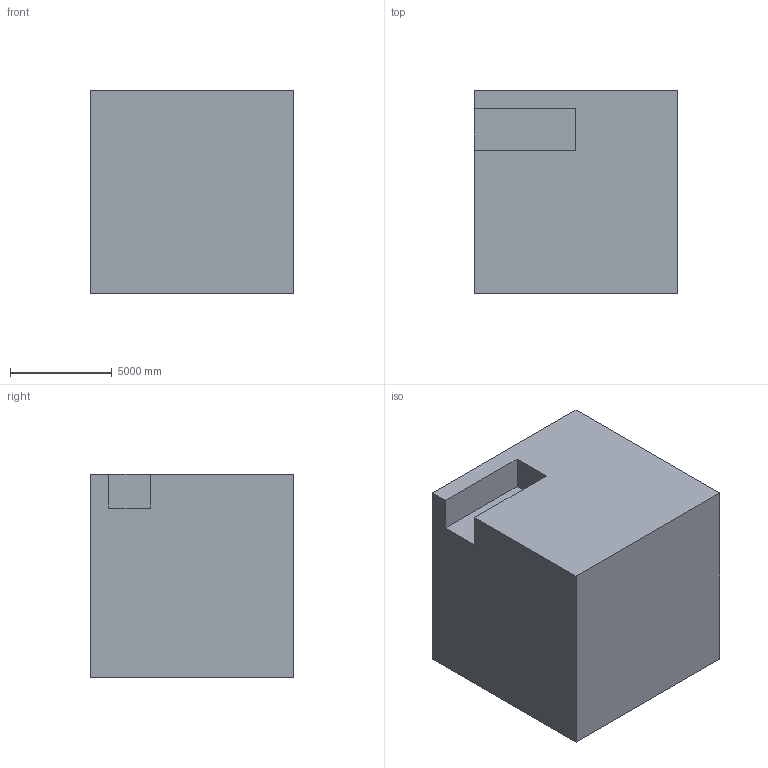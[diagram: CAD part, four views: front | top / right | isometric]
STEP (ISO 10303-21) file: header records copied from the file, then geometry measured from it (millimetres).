
FILE_DESCRIPTION (( 'STEP AP203' ), '1' );
FILE_NAME ('1092.STEP', '2022-08-18T12:43:34', ( 'user' ), ( '' ), 'SwSTEP 2.0', 'SolidWorks 2021', '' );
FILE_SCHEMA (( 'CONFIG_CONTROL_DESIGN' ));
Length unit declared in the file: centimetre
Products named in the file (1): 1092
Bounding box: 10000 x 10000 x 10000 mm (x, y, z)
Volume: 964883848782.8 mm3; surface area: 728061567.2 mm2
Topology: 1 solids, 1 shells, 16 faces, 36 edges, 24 vertices
Faces by surface type: plane 12, cylinder 4
Entity records: 525 total; most frequent: DIRECTION 78, CARTESIAN_POINT 77, ORIENTED_EDGE 72, EDGE_CURVE 36, VECTOR 28, LINE 28, AXIS2_PLACEMENT_3D 25, VERTEX_POINT 24
